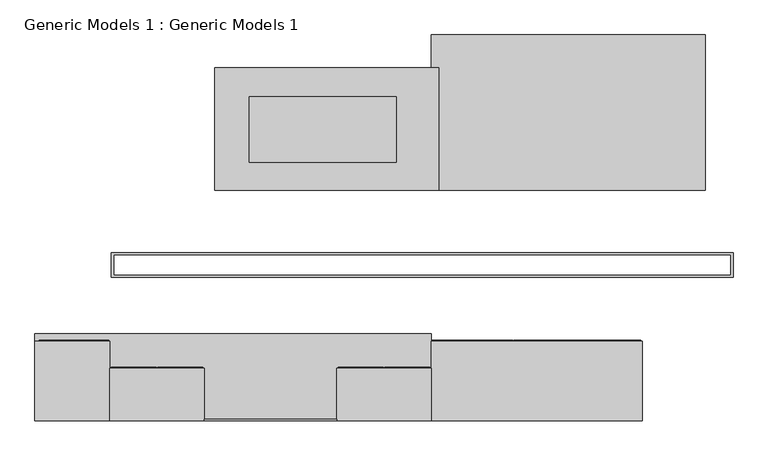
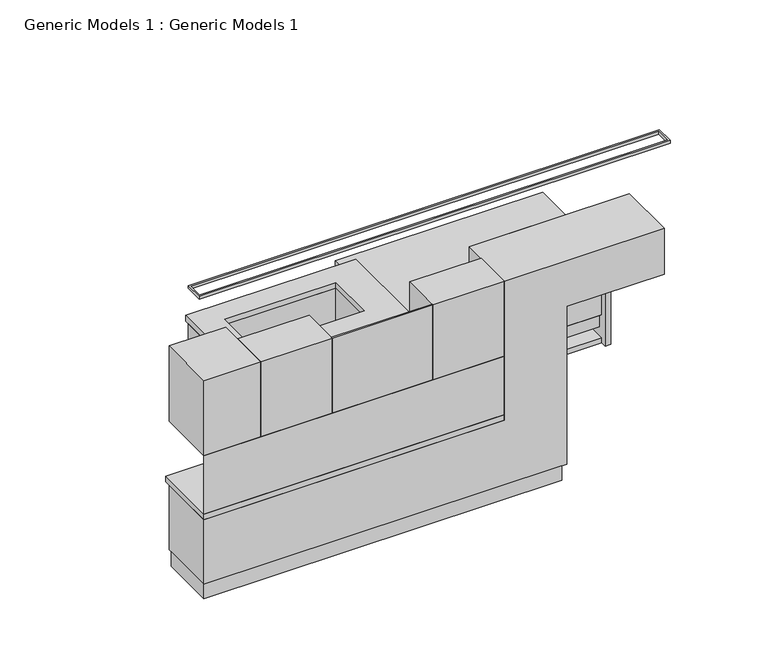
"""IFC4 building model written with IfcOpenShell, lengths in millimetres: proxy geometry, Generic Models 1 : Generic Models 1."""

from ifc_helpers import new_model, si_unit, frame, origin, origin_with_axes, place, context, project, spatial, polyline, outline, extrude, faceted_brep, source, transform, mapped, element, save


def generic_models_1_generic_models_1_19b766ac(model_context):
    return source(origin(), model_context, "Body", "SolidModel", [
        faceted_brep([(-7247.1991004, -1133.998587, 2320.0), (-7247.1991004, -1133.998587, 2327.8870636), (-7247.1991004, -978.4877828, 2327.8870636), (-7247.1991004, -978.4877828, 2320.0), (-7243.4491004, -1130.248587, 2350.0), (-7243.4491004, -1130.248587, 2320.0), (-7243.4491004, -982.2377828, 2320.0), (-7243.4491004, -982.2377828, 2350.0), (-2531.1031345, -978.4877828, 2327.8870636), (-2531.1031345, -978.4877828, 2320.0), (-2534.8531345, -982.2377828, 2320.0), (-2534.8531345, -982.2377828, 2350.0), (-2531.1031345, -1133.998587, 2327.8870636), (-2531.1031345, -1133.998587, 2320.0), (-2534.8531345, -1130.248587, 2320.0), (-2534.8531345, -1130.248587, 2350.0), (-7259.8991004, -965.7877828, 2327.8870636), (-2518.4031345, -965.7877828, 2327.8870636), (-2518.4031345, -1146.698587, 2327.8870636), (-7259.8991004, -1146.698587, 2327.8870636), (-7263.6491004, -1150.448587, 2350.0), (-2514.6531345, -1150.448587, 2350.0), (-2514.6531345, -962.0377828, 2350.0), (-7263.6491004, -962.0377828, 2350.0), (-7263.6491004, -1150.448587, 2320.0), (-7263.6491004, -962.0377828, 2320.0), (-7259.8991004, -1146.698587, 2320.0), (-7259.8991004, -965.7877828, 2320.0), (-2514.6531345, -962.0377828, 2320.0), (-2518.4031345, -965.7877828, 2320.0), (-2514.6531345, -1150.448587, 2320.0), (-2518.4031345, -1146.698587, 2320.0)], [[[0, 1, 2, 3]], [[4, 5, 6, 7]], [[3, 2, 8, 9]], [[7, 6, 10, 11]], [[9, 8, 12, 13]], [[11, 10, 14, 15]], [[16, 17, 18, 19], [1, 12, 8, 2]], [[13, 12, 1, 0]], [[3, 9, 13, 0], [5, 14, 10, 6]], [[15, 14, 5, 4]], [[20, 21, 22, 23], [7, 11, 15, 4]], [[24, 20, 23, 25]], [[19, 26, 27, 16]], [[25, 23, 22, 28]], [[16, 27, 29, 17]], [[28, 22, 21, 30]], [[17, 29, 31, 18]], [[30, 21, 20, 24]], [[25, 28, 30, 24], [26, 31, 29, 27]], [[18, 31, 26, 19]]]),
        extrude(outline(polyline([(-7848.5491004, -2241.8717041), (-4821.6034641, -2241.8717041), (-4821.6034641, -2246.8717041), (-7848.5491004, -2246.8717041), (-7848.5491004, -2241.8717041)])), frame((0.0, 0.0, 900.0), z_axis=(0.0, 0.0, 1.0), x_axis=(1.0, 0.0, 0.0)), (0.0, 0.0, 1.0), 623.0),
        extrude(outline(polyline([(-427.1397811, 830.0), (-427.1397811, 160.0), (-437.1397811, 160.0), (-437.1397811, 805.0), (-434.9522811, 805.0), (-434.9522811, 775.7295603), (-429.9522811, 775.7295603), (-429.9522811, 830.0), (-427.1397811, 830.0)])), frame((-5393.2142642, 0.0, 0.0), z_axis=(1.0, 0.0, 0.0), x_axis=(0.0, 1.0, 0.0)), (0.0, 0.0, 1.0), 561.6108001),
        extrude(outline(polyline([(-427.1397811, 830.0), (-427.1397811, 160.0), (-437.1397811, 160.0), (-437.1397811, 805.0), (-434.9522811, 805.0), (-434.9522811, 775.7295603), (-429.9522811, 775.7295603), (-429.9522811, 830.0), (-427.1397811, 830.0)])), frame((-5954.8250642, 0.0, 0.0), z_axis=(1.0, 0.0, 0.0), x_axis=(0.0, 1.0, 0.0)), (0.0, 0.0, 1.0), 556.6108001),
        extrude(outline(polyline([(-427.1397811, 383.4), (-427.1397811, 160.0), (-437.1397811, 160.0), (-437.1397811, 358.4), (-434.9522811, 358.4), (-434.9522811, 329.1295603), (-429.9522811, 329.1295603), (-429.9522811, 383.4), (-427.1397811, 383.4)])), frame((-6464.8250642, 0.0, 0.0), z_axis=(1.0, 0.0, 0.0), x_axis=(0.0, 1.0, 0.0)), (0.0, 0.0, 1.0), 500.0),
        extrude(outline(polyline([(-427.1397811, 830.0), (-427.1397811, 611.7), (-437.1397811, 611.7), (-437.1397811, 805.0), (-434.9522811, 805.0), (-434.9522811, 775.7295603), (-429.9522811, 775.7295603), (-429.9522811, 830.0), (-427.1397811, 830.0)])), frame((-6464.8250642, 0.0, 0.0), z_axis=(1.0, 0.0, 0.0), x_axis=(0.0, 1.0, 0.0)), (0.0, 0.0, 1.0), 500.0),
        extrude(outline(polyline([(-427.1397811, 606.7), (-427.1397811, 388.4), (-429.9522811, 388.4), (-429.9522811, 442.6704397), (-434.9522811, 442.6704397), (-434.9522811, 413.4), (-437.1397811, 413.4), (-437.1397811, 606.7), (-427.1397811, 606.7)])), frame((-6464.8250642, 0.0, 0.0), z_axis=(1.0, 0.0, 0.0), x_axis=(0.0, 1.0, 0.0)), (0.0, 0.0, 1.0), 500.0),
        extrude(outline(polyline([(-427.1397811, 680.0), (-427.1397811, 160.0), (-437.1397811, 160.0), (-437.1397811, 655.0), (-434.9522811, 655.0), (-434.9522811, 625.7295603), (-429.9522811, 625.7295603), (-429.9522811, 680.0), (-427.1397811, 680.0)])), frame((-3284.790365, 0.0, 0.0), z_axis=(1.0, 0.0, 0.0), x_axis=(0.0, 1.0, 0.0)), (0.0, 0.0, 1.0), 485.6043664),
        extrude(outline(polyline([(-427.1397811, 680.0), (-427.1397811, 160.0), (-437.1397811, 160.0), (-437.1397811, 655.0), (-434.9522811, 655.0), (-434.9522811, 625.7295603), (-429.9522811, 625.7295603), (-429.9522811, 680.0), (-427.1397811, 680.0)])), frame((-3770.3947314, 0.0, 0.0), z_axis=(1.0, 0.0, 0.0), x_axis=(0.0, 1.0, 0.0)), (0.0, 0.0, 1.0), 480.6043664),
        extrude(outline(polyline([(-427.1397811, 680.0), (-427.1397811, 160.0), (-437.1397811, 160.0), (-437.1397811, 655.0), (-434.9522811, 655.0), (-434.9522811, 625.7295603), (-429.9522811, 625.7295603), (-429.9522811, 680.0), (-427.1397811, 680.0)])), frame((-4751.6034641, 0.0, 0.0), z_axis=(1.0, 0.0, 0.0), x_axis=(0.0, 1.0, 0.0)), (0.0, 0.0, 1.0), 485.6043664),
        extrude(outline(polyline([(-427.1397811, 680.0), (-427.1397811, 160.0), (-437.1397811, 160.0), (-437.1397811, 655.0), (-434.9522811, 655.0), (-434.9522811, 625.7295603), (-429.9522811, 625.7295603), (-429.9522811, 680.0), (-427.1397811, 680.0)])), frame((-4260.9990977, 0.0, 0.0), z_axis=(1.0, 0.0, 0.0), x_axis=(0.0, 1.0, 0.0)), (0.0, 0.0, 1.0), 480.6043664),
        extrude(outline(polyline([(-2789.1859986, -390.1019684), (-6474.8250642, -390.1019684), (-6474.8250642, 324.087268), (-2789.1859986, 324.087268), (-2789.1859986, -390.1019684)])), origin_with_axes(), (0.0, 0.0, 1.0), 150.0),
        extrude(outline(polyline([(-5635.7142642, 450.9631518), (-4846.6034641, 450.9631518), (-4846.6034641, 400.9631518), (-5635.7142642, 400.9631518), (-5635.7142642, 450.9631518)])), frame((0.0, 0.0, -50.0), z_axis=(0.0, 0.0, 1.0), x_axis=(1.0, 0.0, 0.0)), (0.0, 0.0, 1.0), 890.0),
        extrude(outline(polyline([(-6449.8250642, 450.9631518), (-5660.7142642, 450.9631518), (-5660.7142642, 400.9631518), (-6449.8250642, 400.9631518), (-6449.8250642, 450.9631518)])), frame((0.0, 0.0, -50.0), z_axis=(0.0, 0.0, 1.0), x_axis=(1.0, 0.0, 0.0)), (0.0, 0.0, 1.0), 890.0),
        extrude(outline(polyline([(-3269.790365, 450.9631518), (-2814.1859986, 450.9631518), (-2814.1859986, 400.9631518), (-3269.790365, 400.9631518), (-3269.790365, 450.9631518)])), frame((0.0, 0.0, -50.0), z_axis=(0.0, 0.0, 1.0), x_axis=(1.0, 0.0, 0.0)), (0.0, 0.0, 1.0), 740.0),
        extrude(outline(polyline([(-4736.6034641, 450.9631518), (-4280.9990977, 450.9631518), (-4280.9990977, 400.9631518), (-4736.6034641, 400.9631518), (-4736.6034641, 450.9631518)])), frame((0.0, 0.0, -50.0), z_axis=(0.0, 0.0, 1.0), x_axis=(1.0, 0.0, 0.0)), (0.0, 0.0, 1.0), 740.0),
        extrude(outline(polyline([(-3762.8947314, 450.9631518), (-3294.790365, 450.9631518), (-3294.790365, 400.9631518), (-3762.8947314, 400.9631518), (-3762.8947314, 450.9631518)])), frame((0.0, 0.0, -50.0), z_axis=(0.0, 0.0, 1.0), x_axis=(1.0, 0.0, 0.0)), (0.0, 0.0, 1.0), 740.0),
        extrude(outline(polyline([(-4255.9990977, 450.9631518), (-3787.8947314, 450.9631518), (-3787.8947314, 400.9631518), (-4255.9990977, 400.9631518), (-4255.9990977, 450.9631518)])), frame((0.0, 0.0, -50.0), z_axis=(0.0, 0.0, 1.0), x_axis=(1.0, 0.0, 0.0)), (0.0, 0.0, 1.0), 740.0),
        extrude(outline(polyline([(-427.1397811, 690.0), (400.9631518, 690.0), (400.9631518, -150.0), (-427.1397811, -150.0), (-427.1397811, -95.0), (228.6290721, -95.0), (228.6290721, 150.0), (-427.1397811, 150.0), (-427.1397811, 690.0)])), frame((-4821.6034641, 0.0, 0.0), z_axis=(1.0, 0.0, 0.0), x_axis=(0.0, 1.0, 0.0)), (0.0, 0.0, 1.0), 2032.4174655),
        extrude(outline(polyline([(-1846.8717041, 1523.0), (-1846.8717041, 2313.0), (-1836.8717041, 2313.0), (-1836.8717041, 1548.0), (-1839.0592041, 1548.0), (-1839.0592041, 1577.2704397), (-1844.0592041, 1577.2704397), (-1844.0592041, 1523.0), (-1846.8717041, 1523.0)])), frame((-5176.6427423, 0.0, 0.0), z_axis=(1.0, 0.0, 0.0), x_axis=(0.0, 1.0, 0.0)), (0.0, 0.0, 1.0), 345.0392782),
        extrude(outline(polyline([(-1846.8717041, 1523.0), (-1846.8717041, 2313.0), (-1836.8717041, 2313.0), (-1836.8717041, 1548.0), (-1839.0592041, 1548.0), (-1839.0592041, 1577.2704397), (-1844.0592041, 1577.2704397), (-1844.0592041, 1523.0), (-1846.8717041, 1523.0)])), frame((-5531.6820205, 0.0, 0.0), z_axis=(1.0, 0.0, 0.0), x_axis=(0.0, 1.0, 0.0)), (0.0, 0.0, 1.0), 345.0392782),
        extrude(outline(polyline([(-1846.8717041, 1523.0), (-1846.8717041, 2313.0), (-1836.8717041, 2313.0), (-1836.8717041, 1548.0), (-1839.0592041, 1548.0), (-1839.0592041, 1577.2704397), (-1844.0592041, 1577.2704397), (-1844.0592041, 1523.0), (-1846.8717041, 1523.0)])), frame((-7266.1605769, 0.0, 0.0), z_axis=(1.0, 0.0, 0.0), x_axis=(0.0, 1.0, 0.0)), (0.0, 0.0, 1.0), 345.0392782),
        extrude(outline(polyline([(-1846.8717041, 1523.0), (-1846.8717041, 2313.0), (-1836.8717041, 2313.0), (-1836.8717041, 1548.0), (-1839.0592041, 1548.0), (-1839.0592041, 1577.2704397), (-1844.0592041, 1577.2704397), (-1844.0592041, 1523.0), (-1846.8717041, 1523.0)])), frame((-6911.1212987, 0.0, 0.0), z_axis=(1.0, 0.0, 0.0), x_axis=(0.0, 1.0, 0.0)), (0.0, 0.0, 1.0), 345.0392782),
        faceted_brep([(-4811.6034641, -1630.3485874, 490.0), (-4231.6034641, -1630.3485874, 490.0), (-4231.6034641, -1630.3485874, 352.5), (-4811.6034641, -1630.3485874, 352.5), (-4231.6034641, -1640.3485874, 490.0), (-4811.6034641, -1640.3485874, 490.0), (-4811.6034641, -1640.3485874, 327.5), (-4231.6034641, -1640.3485874, 327.5), (-4231.6034641, -1637.5360874, 327.5), (-4231.6034641, -1637.5360874, 381.7704397), (-4231.6034641, -1632.5360874, 381.7704397), (-4231.6034641, -1632.5360874, 352.5), (-4811.6034641, -1632.5360874, 352.5), (-4811.6034641, -1632.5360874, 381.7704397), (-4811.6034641, -1637.5360874, 381.7704397), (-4811.6034641, -1637.5360874, 327.5)], [[[0, 1, 2, 3]], [[4, 5, 6, 7]], [[4, 7, 8, 9, 10, 11, 2, 1]], [[6, 5, 0, 3, 12, 13, 14, 15]], [[1, 0, 5, 4]], [[7, 6, 15, 8]], [[12, 11, 10, 13]], [[13, 10, 9, 14]], [[14, 9, 8, 15]], [[11, 12, 3, 2]]]),
        faceted_brep([(-4231.6034641, -1630.3485874, 160.0), (-4811.6034641, -1630.3485874, 160.0), (-4811.6034641, -1630.3485874, 297.5), (-4231.6034641, -1630.3485874, 297.5), (-4811.6034641, -1640.3485874, 322.5), (-4811.6034641, -1640.3485874, 160.0), (-4231.6034641, -1640.3485874, 160.0), (-4231.6034641, -1640.3485874, 322.5), (-4231.6034641, -1632.5360874, 297.5), (-4231.6034641, -1632.5360874, 268.2295603), (-4231.6034641, -1637.5360874, 268.2295603), (-4231.6034641, -1637.5360874, 322.5), (-4811.6034641, -1637.5360874, 322.5), (-4811.6034641, -1637.5360874, 268.2295603), (-4811.6034641, -1632.5360874, 268.2295603), (-4811.6034641, -1632.5360874, 297.5)], [[[0, 1, 2, 3]], [[4, 5, 6, 7]], [[7, 6, 0, 3, 8, 9, 10, 11]], [[1, 0, 6, 5]], [[5, 4, 12, 13, 14, 15, 2, 1]], [[4, 7, 11, 12]], [[14, 9, 8, 15]], [[9, 14, 13, 10]], [[10, 13, 12, 11]], [[15, 8, 3, 2]]]),
        faceted_brep([(-4811.6034641, -1630.3485874, 2313.0), (-4196.6034641, -1630.3485874, 2313.0), (-4196.6034641, -1630.3485874, 1523.0), (-4197.0909646, -1630.3485874, 1523.0), (-4197.0909646, -1630.3485874, 1548.0), (-4811.6034641, -1630.3485874, 1548.0), (-4196.6034641, -1640.3485874, 1523.0), (-4196.6034641, -1640.3485874, 2313.0), (-4811.6034641, -1640.3485874, 2313.0), (-4811.6034641, -1640.3485874, 1523.0), (-4811.6034641, -1637.5360874, 1523.0), (-4197.0909646, -1637.5360874, 1523.0), (-4811.6034641, -1632.5360874, 1548.0), (-4811.6034641, -1632.5360874, 1577.2704397), (-4811.6034641, -1637.5360874, 1577.2704397), (-4197.0909646, -1632.5360874, 1548.0), (-4197.0909646, -1632.5360874, 1577.2704397), (-4197.0909646, -1637.5360874, 1577.2704397)], [[[0, 1, 2, 3, 4, 5]], [[6, 7, 8, 9]], [[6, 9, 10, 11, 3, 2]], [[9, 8, 0, 5, 12, 13, 14, 10]], [[1, 0, 8, 7]], [[2, 1, 7, 6]], [[15, 16, 13, 12]], [[16, 17, 14, 13]], [[17, 11, 10, 14]], [[4, 15, 12, 5]], [[11, 17, 16, 15, 4, 3]]]),
        faceted_brep([(-5758.8820205, -1630.3485874, 607.0), (-6338.8820205, -1630.3485874, 607.0), (-6338.8820205, -1630.3485874, 805.0), (-5758.8820205, -1630.3485874, 805.0), (-6338.8820205, -1640.3485874, 830.0), (-6338.8820205, -1640.3485874, 607.0), (-5758.8820205, -1640.3485874, 607.0), (-5758.8820205, -1640.3485874, 830.0), (-5758.8820205, -1637.5360874, 830.0), (-6338.8820205, -1637.5360874, 830.0), (-5758.8820205, -1632.5360874, 805.0), (-5758.8820205, -1632.5360874, 775.7295603), (-5758.8820205, -1637.5360874, 775.7295603), (-6338.8820205, -1637.5360874, 775.7295603), (-6338.8820205, -1632.5360874, 775.7295603), (-6338.8820205, -1632.5360874, 805.0)], [[[0, 1, 2, 3]], [[4, 5, 6, 7]], [[4, 7, 8, 9]], [[7, 6, 0, 3, 10, 11, 12, 8]], [[1, 0, 6, 5]], [[5, 4, 9, 13, 14, 15, 2, 1]], [[10, 15, 14, 11]], [[11, 14, 13, 12]], [[12, 13, 9, 8]], [[15, 10, 3, 2]]]),
        faceted_brep([(-5758.8820205, -1630.3485874, 160.0), (-6338.8820205, -1630.3485874, 160.0), (-6338.8820205, -1630.3485874, 356.5), (-5758.8820205, -1630.3485874, 356.5), (-5758.8820205, -1640.3485874, 381.5), (-6338.8820205, -1640.3485874, 381.5), (-6338.8820205, -1640.3485874, 160.0), (-5758.8820205, -1640.3485874, 160.0), (-5758.8820205, -1635.3485874, 356.5), (-5758.8820205, -1635.3485874, 381.5), (-6338.8820205, -1635.3485874, 381.5), (-6338.8820205, -1635.3485874, 356.5)], [[[0, 1, 2, 3]], [[4, 5, 6, 7]], [[4, 7, 0, 3, 8, 9]], [[1, 0, 7, 6]], [[6, 5, 10, 11, 2, 1]], [[5, 4, 9, 10]], [[11, 8, 3, 2]], [[8, 11, 10, 9]]]),
        faceted_brep([(-5290.2427423, -1630.3485874, 160.0), (-5748.8820205, -1630.3485874, 160.0), (-5748.8820205, -1630.3485874, 805.0), (-5290.2427423, -1630.3485874, 805.0), (-5290.2427423, -1640.3485874, 830.0), (-5748.8820205, -1640.3485874, 830.0), (-5748.8820205, -1640.3485874, 160.0), (-5290.2427423, -1640.3485874, 160.0), (-5290.2427423, -1632.5360874, 805.0), (-5290.2427423, -1632.5360874, 775.7295603), (-5290.2427423, -1637.5360874, 775.7295603), (-5290.2427423, -1637.5360874, 830.0), (-5748.8820205, -1637.5360874, 830.0), (-5748.8820205, -1637.5360874, 775.7295603), (-5748.8820205, -1632.5360874, 775.7295603), (-5748.8820205, -1632.5360874, 805.0)], [[[0, 1, 2, 3]], [[4, 5, 6, 7]], [[4, 7, 0, 3, 8, 9, 10, 11]], [[1, 0, 7, 6]], [[6, 5, 12, 13, 14, 15, 2, 1]], [[5, 4, 11, 12]], [[8, 15, 14, 9]], [[9, 14, 13, 10]], [[10, 13, 12, 11]], [[15, 8, 3, 2]]]),
        faceted_brep([(-4821.6034641, -1630.3485874, 160.0), (-5280.2427423, -1630.3485874, 160.0), (-5280.2427423, -1630.3485874, 805.0), (-4821.6034641, -1630.3485874, 805.0), (-5280.2427423, -1640.3485874, 160.0), (-4821.6034641, -1640.3485874, 160.0), (-4821.6034641, -1640.3485874, 830.0), (-5280.2427423, -1640.3485874, 830.0), (-5280.2427423, -1637.5360874, 830.0), (-5280.2427423, -1637.5360874, 775.7295603), (-5280.2427423, -1632.5360874, 775.7295603), (-5280.2427423, -1632.5360874, 805.0), (-4821.6034641, -1632.5360874, 805.0), (-4821.6034641, -1632.5360874, 775.7295603), (-4821.6034641, -1637.5360874, 775.7295603), (-4821.6034641, -1637.5360874, 830.0)], [[[0, 1, 2, 3]], [[4, 5, 6, 7]], [[4, 7, 8, 9, 10, 11, 2, 1]], [[6, 5, 0, 3, 12, 13, 14, 15]], [[1, 0, 5, 4]], [[7, 6, 15, 8]], [[12, 11, 10, 13]], [[13, 10, 9, 14]], [[14, 9, 8, 15]], [[11, 12, 3, 2]]]),
        faceted_brep([(-6812.5212987, -1630.3485874, 160.0), (-7266.1605769, -1630.3485874, 160.0), (-7266.1605769, -1630.3485874, 805.0), (-6812.5212987, -1630.3485874, 805.0), (-6812.5212987, -1640.3485874, 830.0), (-7266.1605769, -1640.3485874, 830.0), (-7266.1605769, -1640.3485874, 160.0), (-6812.5212987, -1640.3485874, 160.0), (-6812.5212987, -1632.5360874, 805.0), (-6812.5212987, -1632.5360874, 775.7295603), (-6812.5212987, -1637.5360874, 775.7295603), (-6812.5212987, -1637.5360874, 830.0), (-7266.1605769, -1637.5360874, 830.0), (-7266.1605769, -1637.5360874, 775.7295603), (-7266.1605769, -1632.5360874, 775.7295603), (-7266.1605769, -1632.5360874, 805.0)], [[[0, 1, 2, 3]], [[4, 5, 6, 7]], [[4, 7, 0, 3, 8, 9, 10, 11]], [[1, 0, 7, 6]], [[6, 5, 12, 13, 14, 15, 2, 1]], [[5, 4, 11, 12]], [[8, 15, 14, 9]], [[9, 14, 13, 10]], [[10, 13, 12, 11]], [[15, 8, 3, 2]]]),
        faceted_brep([(-6348.8820205, -1630.3485874, 160.0), (-6802.5212987, -1630.3485874, 160.0), (-6802.5212987, -1630.3485874, 805.0), (-6348.8820205, -1630.3485874, 805.0), (-6802.5212987, -1640.3485874, 160.0), (-6348.8820205, -1640.3485874, 160.0), (-6348.8820205, -1640.3485874, 830.0), (-6802.5212987, -1640.3485874, 830.0), (-6802.5212987, -1637.5360874, 830.0), (-6802.5212987, -1637.5360874, 775.7295603), (-6802.5212987, -1632.5360874, 775.7295603), (-6802.5212987, -1632.5360874, 805.0), (-6348.8820205, -1637.5360874, 830.0), (-6348.8820205, -1632.5360874, 805.0), (-6348.8820205, -1632.5360874, 775.7295603), (-6348.8820205, -1637.5360874, 775.7295603)], [[[0, 1, 2, 3]], [[4, 5, 6, 7]], [[4, 7, 8, 9, 10, 11, 2, 1]], [[7, 6, 12, 8]], [[6, 5, 0, 3, 13, 14, 15, 12]], [[1, 0, 5, 4]], [[13, 11, 10, 14]], [[14, 10, 9, 15]], [[15, 9, 8, 12]], [[11, 13, 3, 2]]]),
        faceted_brep([(-6338.8820205, -1630.3485874, 602.0), (-5758.8820205, -1630.3485874, 602.0), (-5758.8820205, -1630.3485874, 411.5), (-6338.8820205, -1630.3485874, 411.5), (-5758.8820205, -1640.3485874, 602.0), (-6338.8820205, -1640.3485874, 602.0), (-6338.8820205, -1640.3485874, 386.5), (-5758.8820205, -1640.3485874, 386.5), (-5758.8820205, -1637.5360874, 386.5), (-5758.8820205, -1637.5360874, 440.7704397), (-5758.8820205, -1632.5360874, 440.7704397), (-5758.8820205, -1632.5360874, 411.5), (-6338.8820205, -1632.5360874, 411.5), (-6338.8820205, -1632.5360874, 440.7704397), (-6338.8820205, -1637.5360874, 440.7704397), (-6338.8820205, -1637.5360874, 386.5)], [[[0, 1, 2, 3]], [[4, 5, 6, 7]], [[4, 7, 8, 9, 10, 11, 2, 1]], [[6, 5, 0, 3, 12, 13, 14, 15]], [[1, 0, 5, 4]], [[7, 6, 15, 8]], [[10, 13, 12, 11]], [[13, 10, 9, 14]], [[14, 9, 8, 15]], [[11, 12, 3, 2]]]),
        faceted_brep([(-7286.1605769, -1630.3485874, 160.0), (-7814.5491004, -1630.3485874, 160.0), (-7814.5491004, -1630.3485874, 805.0), (-7286.1605769, -1630.3485874, 805.0), (-7286.1605769, -1640.3485874, 160.0), (-7286.1605769, -1640.3485874, 830.0), (-7814.5491004, -1640.3485874, 830.0), (-7814.5491004, -1640.3485874, 160.0), (-7814.5491004, -1637.5360874, 830.0), (-7814.5491004, -1637.5360874, 775.7295603), (-7814.5491004, -1632.5360874, 775.7295603), (-7814.5491004, -1632.5360874, 805.0), (-7286.1605769, -1637.5360874, 830.0), (-7286.1605769, -1632.5360874, 805.0), (-7286.1605769, -1632.5360874, 775.7295603), (-7286.1605769, -1637.5360874, 775.7295603)], [[[0, 1, 2, 3]], [[4, 5, 6, 7]], [[1, 0, 4, 7]], [[7, 6, 8, 9, 10, 11, 2, 1]], [[6, 5, 12, 8]], [[5, 4, 0, 3, 13, 14, 15, 12]], [[13, 11, 10, 14]], [[14, 10, 9, 15]], [[15, 9, 8, 12]], [[11, 13, 3, 2]]]),
        faceted_brep([(-7814.5491004, -1630.3485874, 2313.0), (-7286.1605769, -1630.3485874, 2313.0), (-7286.1605769, -1630.3485874, 1548.0), (-7814.5491004, -1630.3485874, 1548.0), (-7286.1605769, -1640.3485874, 1523.0), (-7286.1605769, -1640.3485874, 2313.0), (-7814.5491004, -1640.3485874, 2313.0), (-7814.5491004, -1640.3485874, 1523.0), (-7814.5491004, -1637.5360874, 1523.0), (-7286.1605769, -1637.5360874, 1523.0), (-7814.5491004, -1632.5360874, 1548.0), (-7814.5491004, -1632.5360874, 1577.2704397), (-7814.5491004, -1637.5360874, 1577.2704397), (-7286.1605769, -1637.5360874, 1577.2704397), (-7286.1605769, -1632.5360874, 1577.2704397), (-7286.1605769, -1632.5360874, 1548.0)], [[[0, 1, 2, 3]], [[4, 5, 6, 7]], [[4, 7, 8, 9]], [[7, 6, 0, 3, 10, 11, 12, 8]], [[1, 0, 6, 5]], [[5, 4, 9, 13, 14, 15, 2, 1]], [[10, 15, 14, 11]], [[11, 14, 13, 12]], [[12, 13, 9, 8]], [[15, 10, 3, 2]]]),
        faceted_brep([(-4191.6034641, -1630.3485874, 2313.0), (-3219.7531345, -1630.3485874, 2313.0), (-3219.7531345, -1630.3485874, 1856.175), (-4191.6034641, -1630.3485874, 1856.175), (-4191.6034641, -1640.3485874, 2313.0), (-4191.6034641, -1640.3485874, 1831.175), (-3219.7531345, -1640.3485874, 1831.175), (-3219.7531345, -1640.3485874, 2313.0), (-3219.7531345, -1637.5360874, 1831.175), (-3219.7531345, -1637.5360874, 1885.4454397), (-3219.7531345, -1632.5360874, 1885.4454397), (-3219.7531345, -1632.5360874, 1856.175), (-4191.6034641, -1637.5360874, 1831.175), (-4191.6034641, -1632.5360874, 1856.175), (-4191.6034641, -1632.5360874, 1885.4454397), (-4191.6034641, -1637.5360874, 1885.4454397)], [[[0, 1, 2, 3]], [[4, 5, 6, 7]], [[1, 0, 4, 7]], [[7, 6, 8, 9, 10, 11, 2, 1]], [[6, 5, 12, 8]], [[5, 4, 0, 3, 13, 14, 15, 12]], [[10, 14, 13, 11]], [[14, 10, 9, 15]], [[15, 9, 8, 12]], [[11, 13, 3, 2]]]),
        extrude(outline(polyline([(-6556.0820205, -2236.8717041), (-5541.6820205, -2236.8717041), (-5541.6820205, -2246.8717041), (-6556.0820205, -2246.8717041), (-6556.0820205, -2236.8717041)])), frame((0.0, 0.0, 1523.0), z_axis=(0.0, 0.0, 1.0), x_axis=(1.0, 0.0, 0.0)), (0.0, 0.0, 1.0), 800.0),
        faceted_brep([(-6474.8250642, -427.1397811, 840.0), (-4821.6034641, -427.1397811, 840.0), (-4821.6034641, 400.9631518, 840.0), (-6474.8250642, 400.9631518, 840.0), (-5089.8250642, -271.3709279, 840.0), (-6209.8250642, -271.3709279, 840.0), (-6209.8250642, 228.6290721, 840.0), (-5089.8250642, 228.6290721, 840.0), (-6474.8250642, -427.1397811, -150.0), (-6474.8250642, 400.9631518, -150.0), (-4821.6034641, 400.9631518, -150.0), (-4821.6034641, -427.1397811, -150.0), (-6474.8250642, -427.1397811, 150.0), (-4821.6034641, -427.1397811, 150.0), (-4821.6034641, -427.1397811, -95.0), (-6474.8250642, -427.1397811, -95.0), (-4821.6034641, 228.6290721, 150.0), (-4821.6034641, 228.6290721, -95.0), (-6474.8250642, 228.6290721, -95.0), (-6474.8250642, 228.6290721, 150.0), (-5089.8250642, -271.3709279, 254.0), (-5089.8250642, 228.6290721, 254.0), (-6209.8250642, 228.6290721, 254.0), (-6209.8250642, -271.3709279, 254.0)], [[[0, 1, 2, 3], [4, 5, 6, 7]], [[8, 9, 10, 11]], [[1, 0, 12, 13]], [[8, 11, 14, 15]], [[2, 1, 13, 16, 17, 14, 11, 10]], [[3, 2, 10, 9]], [[0, 3, 9, 8, 15, 18, 19, 12]], [[20, 21, 22, 23]], [[20, 23, 5, 4]], [[23, 22, 6, 5]], [[22, 21, 7, 6]], [[21, 20, 4, 7]], [[16, 19, 18, 17]], [[17, 18, 15, 14]], [[19, 16, 13, 12]]]),
        extrude(outline(polyline([(-4241.6034641, -2246.8717041), (-7848.5491004, -2246.8717041), (-7848.5491004, -1675.4749322), (-4241.6034641, -1675.4749322), (-4241.6034641, -2246.8717041)])), origin_with_axes(), (0.0, 0.0, 1.0), 150.0),
        faceted_brep([(-7848.5491004, -2246.8717041, 900.0), (-4821.6034641, -2246.8717041, 900.0), (-4821.6034641, -1580.3485874, 900.0), (-7848.5491004, -1580.3485874, 900.0), (-7848.5491004, -2246.8717041, 840.0), (-7848.5491004, -1580.3485874, 840.0), (-4821.6034641, -1580.3485874, 840.0), (-4821.6034641, -2246.8717041, 840.0)], [[[0, 1, 2, 3]], [[4, 5, 6, 7]], [[1, 0, 4, 7]], [[2, 1, 7, 6]], [[3, 2, 6, 5]], [[0, 3, 5, 4]]]),
        faceted_brep([(-6474.8250642, -487.1397811, 900.0), (-4761.6034641, -487.1397811, 900.0), (-4761.6034641, 450.9631518, 900.0), (-6474.8250642, 450.9631518, 900.0), (-5089.8250642, -271.3709279, 900.0), (-6209.8250642, -271.3709279, 900.0), (-6209.8250642, 228.6290721, 900.0), (-5089.8250642, 228.6290721, 900.0), (-6474.8250642, -487.1397811, 840.0), (-6474.8250642, 450.9631518, 840.0), (-4821.6034641, 450.9631518, 840.0), (-4821.6034641, -487.1397811, 840.0), (-6209.8250642, -271.3709279, 840.0), (-5089.8250642, -271.3709279, 840.0), (-5089.8250642, 228.6290721, 840.0), (-6209.8250642, 228.6290721, 840.0), (-4821.6034641, -487.1397811, 750.0), (-4761.6034641, -487.1397811, 750.0), (-4761.6034641, 450.9631518, 750.0), (-4821.6034641, 450.9631518, 750.0)], [[[0, 1, 2, 3], [4, 5, 6, 7]], [[8, 9, 10, 11], [12, 13, 14, 15]], [[1, 0, 8, 11, 16, 17]], [[2, 1, 17, 18]], [[3, 2, 18, 19, 10, 9]], [[0, 3, 9, 8]], [[19, 18, 17, 16]], [[10, 19, 16, 11]], [[4, 13, 12, 5]], [[5, 12, 15, 6]], [[6, 15, 14, 7]], [[13, 4, 7, 14]]]),
        faceted_brep([(-2729.1859986, -487.1397811, 750.0), (-2729.1859986, 700.9631518, 750.0), (-4821.6034641, 700.9631518, 750.0), (-4821.6034641, -487.1397811, 750.0), (-2789.1859986, -487.1397811, 690.0), (-4821.6034641, -487.1397811, 690.0), (-4821.6034641, -467.7374496, 690.0), (-4761.6034641, -467.7374496, 690.0), (-4761.6034641, 700.9631518, 690.0), (-2789.1859986, 700.9631518, 690.0), (-4821.6034641, 700.9631518, -150.0), (-4821.6034641, -467.7374496, -150.0), (-2789.1859986, -487.1397811, -150.0), (-2729.1859986, -487.1397811, -150.0), (-2729.1859986, 700.9631518, -150.0), (-2789.1859986, 700.9631518, -150.0), (-4761.6034641, 700.9631518, -150.0), (-4761.6034641, -467.7374496, -150.0)], [[[0, 1, 2, 3]], [[4, 5, 6, 7, 8, 9]], [[10, 11, 6, 5, 3, 2]], [[5, 4, 12, 13, 0, 3]], [[10, 2, 1, 14, 15, 9, 8, 16]], [[14, 1, 0, 13]], [[15, 14, 13, 12]], [[15, 12, 4, 9]], [[11, 17, 7, 6]], [[17, 16, 8, 7]], [[10, 16, 17, 11]]]),
        extrude(outline(polyline([(-5541.6820205, -1846.8717041), (-4821.6034641, -1846.8717041), (-4821.6034641, -2246.8717041), (-5541.6820205, -2246.8717041), (-5541.6820205, -1846.8717041)])), frame((0.0, 0.0, 1523.0), z_axis=(0.0, 0.0, 1.0), x_axis=(1.0, 0.0, 0.0)), (0.0, 0.0, 1.0), 800.0),
        extrude(outline(polyline([(-7276.1605769, -1846.8717041), (-6556.0820205, -1846.8717041), (-6556.0820205, -2246.8717041), (-7276.1605769, -2246.8717041), (-7276.1605769, -1846.8717041)])), frame((0.0, 0.0, 1523.0), z_axis=(0.0, 0.0, 1.0), x_axis=(1.0, 0.0, 0.0)), (0.0, 0.0, 1.0), 800.0),
        faceted_brep([(-7848.5491004, -1640.3485874, 1523.0), (-7848.5491004, -1640.3485874, 2323.0), (-7276.1605769, -1640.3485874, 2323.0), (-7276.1605769, -1640.3485874, 1523.0), (-7848.5491004, -2246.8717041, 1523.0), (-7276.1605769, -2246.8717041, 1523.0), (-7276.1605769, -2246.8717041, 2323.0), (-7848.5491004, -2246.8717041, 2323.0)], [[[0, 1, 2, 3]], [[4, 5, 6, 7]], [[1, 0, 4, 7]], [[2, 1, 7, 6]], [[3, 2, 6, 5]], [[0, 3, 5, 4]]]),
        faceted_brep([(-4191.6034641, -1640.3485874, 150.0), (-7848.5491004, -1640.3485874, 150.0), (-7848.5491004, -1640.3485874, 840.0), (-4821.6034641, -1640.3485874, 840.0), (-4821.6034641, -1640.3485874, 2323.0), (-3209.7531345, -1640.3485874, 2323.0), (-3209.7531345, -1640.3485874, 1831.175), (-4191.6034641, -1640.3485874, 1831.175), (-4811.6176093, -1640.3485874, 1522.5674484), (-4811.6176093, -1640.3485874, 509.4477522), (-4211.6176093, -1640.3485874, 509.4477522), (-4211.6176093, -1640.3485874, 1522.5674484), (-4191.6034641, -2246.8717041, 150.0), (-4191.6034641, -2246.8717041, 1831.175), (-3209.7531345, -2246.8717041, 1831.175), (-3209.7531345, -2246.8717041, 2323.0), (-4821.6034641, -2246.8717041, 2323.0), (-4821.6034641, -2246.8717041, 840.0), (-7848.5491004, -2246.8717041, 840.0), (-7848.5491004, -2246.8717041, 150.0), (-4811.6176093, -2225.2489789, 1522.5674484), (-4211.6176093, -2225.2489789, 1522.5674484), (-4211.6176093, -2225.2489789, 509.4477522), (-4811.6176093, -2225.2489789, 509.4477522)], [[[0, 1, 2, 3, 4, 5, 6, 7], [8, 9, 10, 11]], [[12, 13, 14, 15, 16, 17, 18, 19]], [[3, 2, 18, 17]], [[4, 3, 17, 16]], [[5, 4, 16, 15]], [[0, 7, 13, 12]], [[20, 21, 22, 23]], [[20, 23, 9, 8]], [[23, 22, 10, 9]], [[22, 21, 11, 10]], [[21, 20, 8, 11]], [[1, 0, 12, 19]], [[6, 5, 15, 14]], [[7, 6, 14, 13]], [[2, 1, 19, 18]]]),
    ])


if __name__ == "__main__":
    model = new_model("IFC4")
    model_context = context("Model", 3, world=origin())
    ifc_project = project(units=[si_unit("LENGTHUNIT", "METRE", prefix="MILLI")], contexts=[model_context])
    site = spatial("IfcSite", under=ifc_project)
    building = spatial("IfcBuilding", under=site)
    placement = place(None, origin())
    generic_models_1_generic_models_1_shape = generic_models_1_generic_models_1_19b766ac(model_context)
    element("IfcBuildingElementProxy", 1, Name="Generic Models 1 : Generic Models 1", ObjectType="Generic Models 1 : Generic Models 1", at=placement, inside=building, context=model_context, shape_type="MappedRepresentation", body=[
        mapped(generic_models_1_generic_models_1_shape, transform((0.0, 0.0, 0.0), x_axis=(1.0, 0.0, 0.0), y_axis=(0.0, 1.0, 0.0), z_axis=(0.0, 0.0, 1.0))),
    ])
    save(model, "model.ifc")
